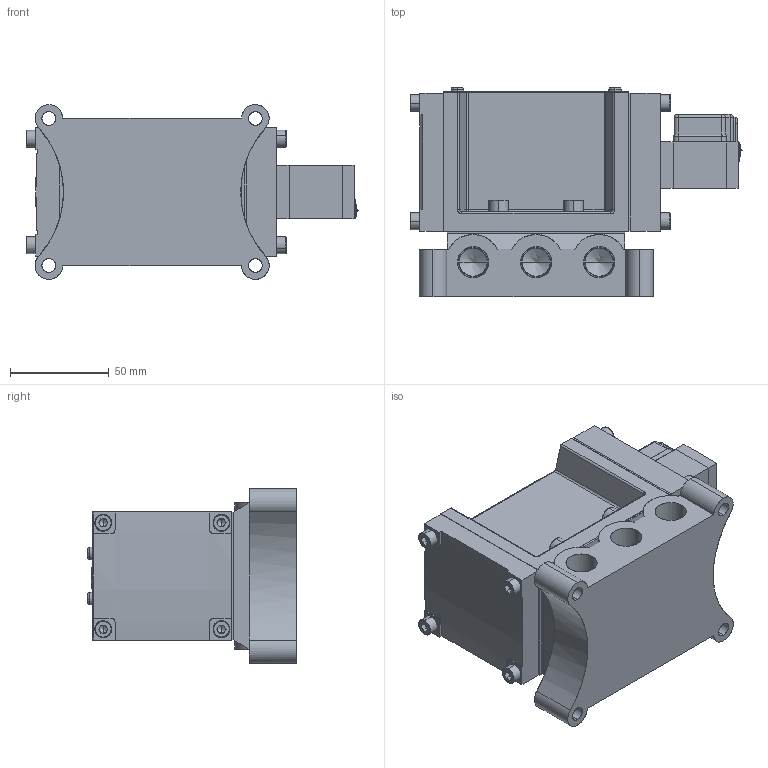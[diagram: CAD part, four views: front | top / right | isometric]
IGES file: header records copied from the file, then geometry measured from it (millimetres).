
Start section: SolidWorks IGES file using analytic representation for surfaces
Global section: file name: D:\Custom\3D繪製\PM\PM10\PMS2410#-03-#G#.IGS,1; native system: 5HSolidWorks 2014; preprocessor: SolidWorks 2014; author: Chieh_Lu; date: 150912.104932; units: millimetre
Bounding box: 168.47 x 106.35 x 88.61 mm (x, y, z)
Surface area: 148851.9 mm2 (no closed solid volume)
Topology: 0 solids, 0 shells, 926 faces, 10434 edges, 10385 vertices
Faces by surface type: bspline 566, revolution 360
